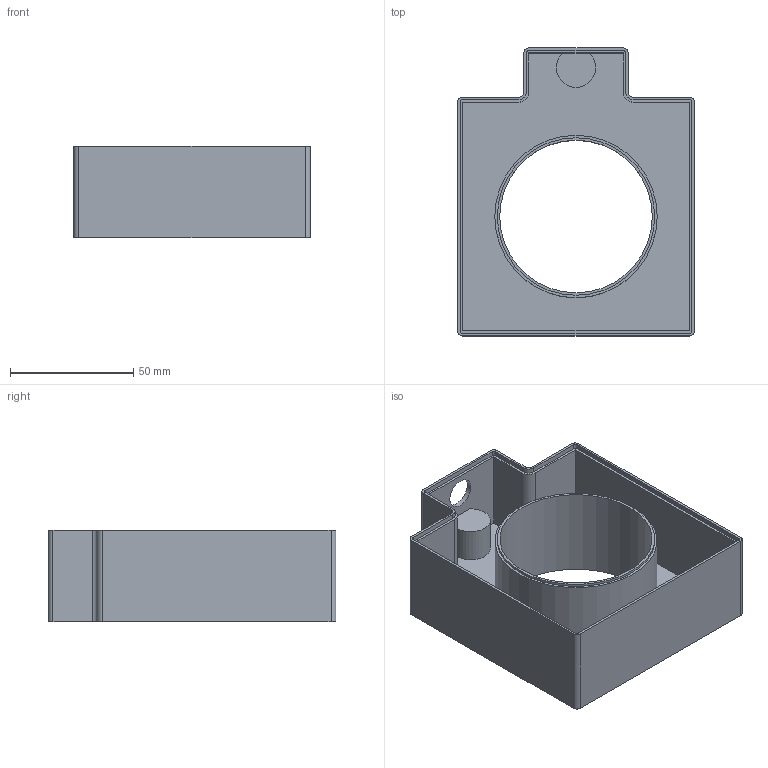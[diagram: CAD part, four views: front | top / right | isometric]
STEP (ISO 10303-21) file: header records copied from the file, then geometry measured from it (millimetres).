
FILE_DESCRIPTION(/* description */ (''),/* implementation_level */ '2;1');
FILE_NAME(/* name */ '_model2.stp',/* time_stamp */ '2024-09-26T10:04:12+08:00',/* author */ (''),/* organization */ (''),/* preprocessor_version */ 'ST-DEVELOPER v16.7',/* originating_system */ 'SIEMENS PLM Software NX 12.0',/* authorisation */ '');
FILE_SCHEMA (('AUTOMOTIVE_DESIGN { 1 0 10303 214 3 1 1 1 }'));
Length unit declared in the file: millimetre
Products named in the file (1): Admi2AD8EE21ecqi
Bounding box: 96.2 x 117 x 37 mm (x, y, z)
Volume: 58034.7 mm3; surface area: 59353.9 mm2
Topology: 1 solids, 1 shells, 59 faces, 156 edges, 104 vertices
Faces by surface type: plane 32, cylinder 25, bspline 2
Full cylindrical faces by diameter (mm): 12 x1, 62 x1, 64 x1, 66 x1
Entity records: 9258 total; most frequent: CARTESIAN_POINT 7736, DIRECTION 310, ORIENTED_EDGE 304, EDGE_CURVE 152, AXIS2_PLACEMENT_3D 108, VERTEX_POINT 104, LINE 94, VECTOR 94
